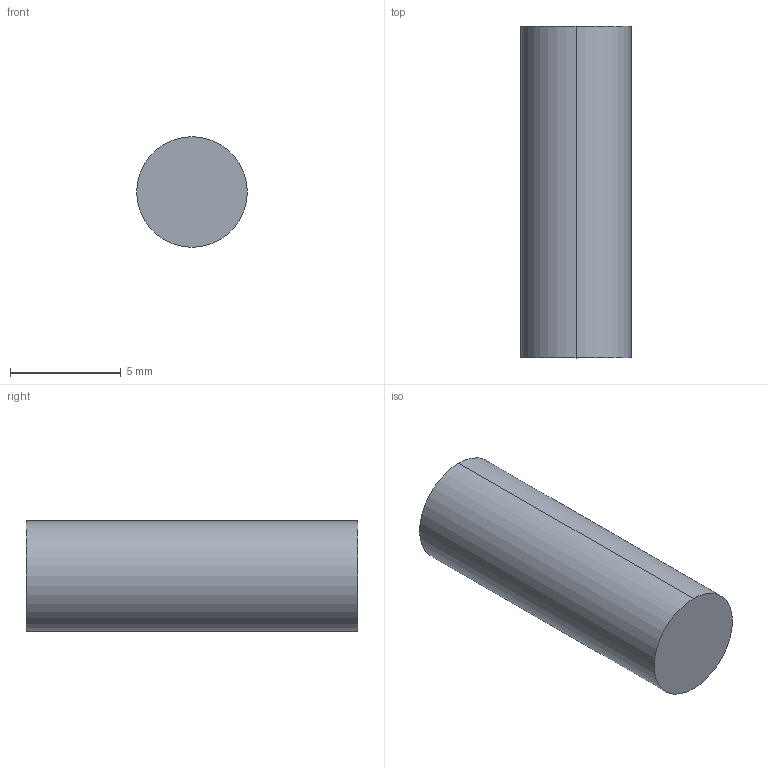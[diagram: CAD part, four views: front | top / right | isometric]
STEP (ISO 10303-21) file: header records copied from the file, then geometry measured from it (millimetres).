
FILE_DESCRIPTION (( 'STEP AP203' ), '1' );
FILE_NAME ('pin.STEP', '2025-11-09T20:02:04', ( 'msi i7' ), ( '' ), 'SwSTEP 2.0', 'SolidWorks 2025', '' );
FILE_SCHEMA (( 'CONFIG_CONTROL_DESIGN' ));
Length unit declared in the file: millimetre
Products named in the file (1): pin
Bounding box: 5 x 15 x 5 mm (x, y, z)
Volume: 294.5 mm3; surface area: 274.9 mm2
Topology: 1 solids, 1 shells, 4 faces, 6 edges, 4 vertices
Faces by surface type: cylinder 2, plane 2
Entity records: 171 total; most frequent: DIRECTION 20, CARTESIAN_POINT 15, ORIENTED_EDGE 12, AXIS2_PLACEMENT_3D 9, PERSON_AND_ORGANIZATION 8, EDGE_CURVE 6, LOCAL_TIME 5, DATE_AND_TIME 5
